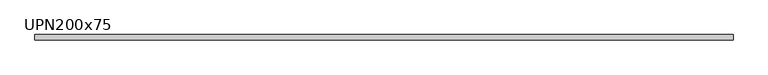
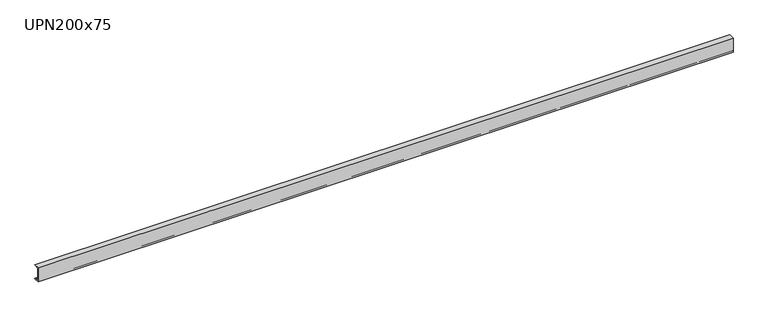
"""IFC4 building model written with IfcOpenShell, lengths in millimetres: beam geometry, M_MC Shapes : UPN200x75."""

from ifc_helpers import new_model, si_unit, point, frame, frame_2d, origin, place, context, project, spatial, polyline, circle_curve, trimmed, segment, composite_curve, outline, extrude, source, transform, mapped, element, save


def upn200x75_e630fb83(model_context):
    return source(origin(), model_context, "Body", "SweptSolid", [
        extrude(outline(composite_curve([segment(polyline([(-10.9, 100.0), (64.1, 100.0), (64.1, 99.0253247)]), True, "CONTINUOUS"), segment(trimmed(circle_curve(frame_2d((60.15, 99.0253247)), 3.95), [point((64.1, 99.0253247))], [point((60.7993773, 95.1290689))], False, "CARTESIAN"), True, "CONTINUOUS"), segment(polyline([(60.7993773, 95.1290689), (0.2512455, 85.0376935)]), True, "CONTINUOUS"), segment(trimmed(circle_curve(frame_2d((1.55, 77.2451819)), 7.9), [point((0.2512455, 85.0376935))], [point((-6.35, 77.2451819))], True, "CARTESIAN"), True, "CONTINUOUS"), segment(polyline([(-6.35, 77.2451819), (-6.35, -77.2451819)]), True, "CONTINUOUS"), segment(trimmed(circle_curve(frame_2d((1.55, -77.2451819)), 7.9), [point((-6.35, -77.2451819))], [point((0.2512455, -85.0376935))], True, "CARTESIAN"), True, "CONTINUOUS"), segment(polyline([(0.2512455, -85.0376935), (60.7993773, -95.1290689)]), True, "CONTINUOUS"), segment(trimmed(circle_curve(frame_2d((60.15, -99.0253247)), 3.95), [point((60.7993773, -95.1290689))], [point((64.1, -99.0253247))], False, "CARTESIAN"), True, "CONTINUOUS"), segment(polyline([(64.1, -99.0253247), (64.1, -100.0), (-10.9, -100.0), (-10.9, 100.0)]), True, "CONTINUOUS")], self_intersect=False)), frame((-4749.35, 0.0, 0.0), z_axis=(1.0, 0.0, 0.0), x_axis=(0.0, 1.0, 0.0)), (0.0, 0.0, 1.0), 9387.2),
    ])


if __name__ == "__main__":
    model = new_model("IFC4")
    model_context = context("Model", 3, world=origin())
    ifc_project = project(units=[si_unit("LENGTHUNIT", "METRE", prefix="MILLI")], contexts=[model_context])
    site = spatial("IfcSite", under=ifc_project)
    building = spatial("IfcBuilding", under=site)
    placement = place(None, origin())
    upn200x75_shape = upn200x75_e630fb83(model_context)
    element("IfcBeam", 1, ObjectType="M_MC Shapes : UPN200x75", at=placement, inside=building, context=model_context, shape_type="MappedRepresentation", body=[
        mapped(upn200x75_shape, transform((0.0, 0.0, 0.0), x_axis=(1.0, 0.0, 0.0), y_axis=(0.0, 1.0, 0.0), z_axis=(0.0, 0.0, 1.0))),
    ])
    save(model, "model.ifc")
